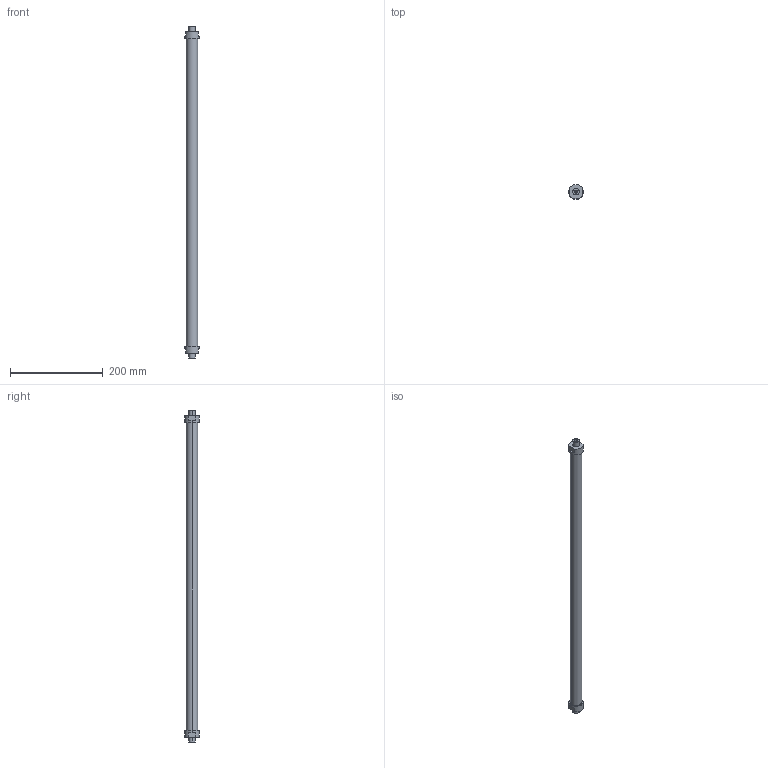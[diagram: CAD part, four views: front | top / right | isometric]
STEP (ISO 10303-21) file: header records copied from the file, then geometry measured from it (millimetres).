
FILE_DESCRIPTION(('STEP AP214'),'1');
FILE_NAME('ETT-R050G704.stp','2015-02-02T13:05:13',(' '),(' '),'Spatial InterOp 3D',' ',' ');
FILE_SCHEMA(('automotive_design'));
Length unit declared in the file: metre
Products named in the file (3): 1; 2; 3
Bounding box: 31 x 31 x 716 mm (x, y, z)
Volume: 330580.5 mm3; surface area: 71990.8 mm2
Topology: 1 solids, 7 shells, 32 faces, 86 edges, 66 vertices
Faces by surface type: cylinder 16, plane 16
Entity records: 1375 total; most frequent: DIRECTION 206, CARTESIAN_POINT 187, ORIENTED_EDGE 148, EDGE_CURVE 86, AXIS2_PLACEMENT_3D 85, VERTEX_POINT 66, CIRCLE 50, EDGE_LOOP 40
